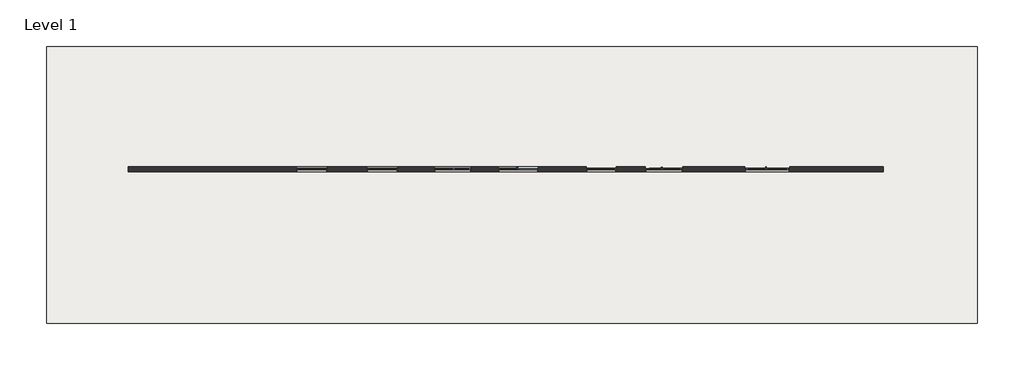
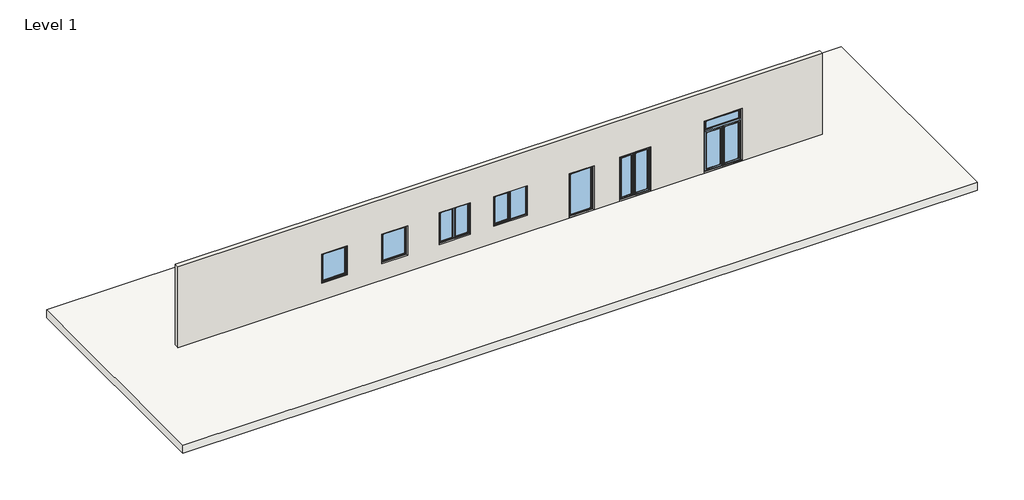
# One storey: 7 windows, 1 slab, 1 wall.
"""IFC4 building model written with IfcOpenShell, lengths in millimetres."""

from ifc_helpers import new_model, si_unit, frame, origin, place, context, project, spatial, polyline, outline, extrude, faceted_brep, transform, mapped, element, save
from components import window_083b68ea, window_8ede987c, window_5c2f0b1a, window_5d94b024, double_balcony_door_double_balcony_door_f30f3416, double_sash_window_double_sash_window_1c3ce499, single_sash_balcony_door_single_sash_balcony_door_8578c67e

model = new_model("IFC4")

# Units and contexts
model_context = context("Model", 3, world=origin())
ifc_project = project(units=[si_unit("LENGTHUNIT", "METRE", prefix="MILLI")], contexts=[model_context])

# Site, building, storey
site = spatial("IfcSite", under=ifc_project)
building = spatial("IfcBuilding", under=site)
storey = spatial("IfcBuildingStorey", under=building, Name="Level 1", Elevation=0.0)

# Slab
placement = place(None, origin())
element("IfcSlab", 1, ObjectType="Generic Floor - 400mm", at=placement, inside=storey, context=model_context, shape_type="SweptSolid", body=[
    extrude(outline(polyline([(20839.0327084, 4442.9068399), (20839.0327084, -6557.0931601), (-16160.9672916, -6557.0931601), (-16160.9672916, 4442.9068399), (20839.0327084, 4442.9068399)])), frame((0.0, 0.0, -400.0), z_axis=(0.0, 0.0, 1.0), x_axis=(1.0, 0.0, 0.0)), (0.0, 0.0, 1.0), 400.0),
])

# Wall
element("IfcWall", 2, ObjectType="Generic - 200mm", at=placement, inside=storey, context=model_context, shape_type="Brep", body=[
    faceted_brep([(-12914.9486119, -526.1211796, 0.0), (17085.0513881, -526.1211796, 0.0), (17085.0513881, -526.1211796, 4000.0), (-12914.9486119, -526.1211796, 4000.0), (13365.0513881, -526.1211796, 2580.0), (13365.0513881, -526.1211796, 20.0), (11605.0513881, -526.1211796, 20.0), (11605.0513881, -526.1211796, 2580.0), (9115.0513881, -526.1211796, 2180.0), (9115.0513881, -526.1211796, 20.0), (7655.0513881, -526.1211796, 20.0), (7655.0513881, -526.1211796, 2180.0), (6465.0513881, -526.1211796, 2180.0), (6465.0513881, -526.1211796, 20.0), (5305.0513881, -526.1211796, 20.0), (5305.0513881, -526.1211796, 2180.0), (-5019.9486119, -526.1211796, 2260.0), (-5019.9486119, -526.1211796, 820.0), (-6209.9486119, -526.1211796, 820.0), (-6209.9486119, -526.1211796, 2260.0), (705.0513881, -526.1211796, 2380.0), (705.0513881, -526.1211796, 820.0), (-734.9486119, -526.1211796, 820.0), (-734.9486119, -526.1211796, 2380.0), (-2219.9486119, -526.1211796, 2260.0), (-2219.9486119, -526.1211796, 820.0), (-3409.9486119, -526.1211796, 820.0), (-3409.9486119, -526.1211796, 2260.0), (3365.0513881, -526.1211796, 2280.0), (3365.0513881, -526.1211796, 820.0), (1805.0513881, -526.1211796, 820.0), (1805.0513881, -526.1211796, 2280.0), (17085.0513881, -326.1211796, 4000.0), (17085.0513881, -326.1211796, 0.0), (13385.0513881, -326.1211796, 0.0), (13385.0513881, -326.1211796, 2600.0), (11585.0513881, -326.1211796, 2600.0), (11585.0513881, -326.1211796, 0.0), (9135.0513881, -326.1211796, 0.0), (9135.0513881, -326.1211796, 2200.0), (7635.0513881, -326.1211796, 2200.0), (7635.0513881, -326.1211796, 0.0), (6485.0513881, -326.1211796, 0.0), (6485.0513881, -326.1211796, 2200.0), (5285.0513881, -326.1211796, 2200.0), (5285.0513881, -326.1211796, 0.0), (-12914.9486119, -326.1211796, 0.0), (-12914.9486119, -326.1211796, 4000.0), (-4999.9486119, -326.1211796, 800.0), (-4999.9486119, -326.1211796, 2280.0), (-6229.9486119, -326.1211796, 2280.0), (-6229.9486119, -326.1211796, 800.0), (725.0513881, -326.1211796, 800.0), (725.0513881, -326.1211796, 2400.0), (-754.9486119, -326.1211796, 2400.0), (-754.9486119, -326.1211796, 800.0), (-2199.9486119, -326.1211796, 800.0), (-2199.9486119, -326.1211796, 2280.0), (-3429.9486119, -326.1211796, 2280.0), (-3429.9486119, -326.1211796, 800.0), (3385.0513881, -326.1211796, 800.0), (3385.0513881, -326.1211796, 2300.0), (1785.0513881, -326.1211796, 2300.0), (1785.0513881, -326.1211796, 800.0), (5285.0513881, -446.1211796, 0.0), (6485.0513881, -446.1211796, 0.0), (7635.0513881, -454.1211796, 0.0), (9135.0513881, -454.1211796, 0.0), (11585.0513881, -446.1211796, 0.0), (13385.0513881, -446.1211796, 0.0), (13385.0513881, -446.1211796, 2600.0), (11585.0513881, -446.1211796, 2600.0), (13365.0513881, -446.1211796, 20.0), (13365.0513881, -446.1211796, 2580.0), (11605.0513881, -446.1211796, 2580.0), (11605.0513881, -446.1211796, 20.0), (9135.0513881, -454.1211796, 2200.0), (7635.0513881, -454.1211796, 2200.0), (9115.0513881, -454.1211796, 20.0), (9115.0513881, -454.1211796, 2180.0), (7655.0513881, -454.1211796, 2180.0), (7655.0513881, -454.1211796, 20.0), (6485.0513881, -446.1211796, 2200.0), (5285.0513881, -446.1211796, 2200.0), (6465.0513881, -446.1211796, 20.0), (6465.0513881, -446.1211796, 2180.0), (5305.0513881, -446.1211796, 2180.0), (5305.0513881, -446.1211796, 20.0), (-4999.9486119, -454.1211796, 2280.0), (-4999.9486119, -454.1211796, 800.0), (-6229.9486119, -454.1211796, 800.0), (-6229.9486119, -454.1211796, 2280.0), (-5019.9486119, -454.1211796, 820.0), (-5019.9486119, -454.1211796, 2260.0), (-6209.9486119, -454.1211796, 2260.0), (-6209.9486119, -454.1211796, 820.0), (725.0513881, -454.1211796, 2400.0), (725.0513881, -454.1211796, 800.0), (-754.9486119, -454.1211796, 800.0), (-754.9486119, -454.1211796, 2400.0), (705.0513881, -454.1211796, 820.0), (705.0513881, -454.1211796, 2380.0), (-734.9486119, -454.1211796, 2380.0), (-734.9486119, -454.1211796, 820.0), (-2199.9486119, -454.1211796, 2280.0), (-2199.9486119, -454.1211796, 800.0), (-3429.9486119, -454.1211796, 800.0), (-3429.9486119, -454.1211796, 2280.0), (-2219.9486119, -454.1211796, 820.0), (-2219.9486119, -454.1211796, 2260.0), (-3409.9486119, -454.1211796, 2260.0), (-3409.9486119, -454.1211796, 820.0), (3385.0513881, -454.1211796, 2300.0), (3385.0513881, -454.1211796, 800.0), (1785.0513881, -454.1211796, 800.0), (1785.0513881, -454.1211796, 2300.0), (3365.0513881, -454.1211796, 820.0), (3365.0513881, -454.1211796, 2280.0), (1805.0513881, -454.1211796, 2280.0), (1805.0513881, -454.1211796, 820.0)], [[[0, 1, 2, 3], [4, 5, 6, 7], [8, 9, 10, 11], [12, 13, 14, 15], [16, 17, 18, 19], [20, 21, 22, 23], [24, 25, 26, 27], [28, 29, 30, 31]], [[32, 33, 34, 35, 36, 37, 38, 39, 40, 41, 42, 43, 44, 45, 46, 47], [48, 49, 50, 51], [52, 53, 54, 55], [56, 57, 58, 59], [60, 61, 62, 63]], [[1, 0, 46, 45, 64, 65, 42, 41, 66, 67, 38, 37, 68, 69, 34, 33]], [[2, 1, 33, 32]], [[3, 2, 32, 47]], [[0, 3, 47, 46]], [[70, 69, 68, 71], [72, 73, 74, 75]], [[69, 70, 35, 34]], [[71, 68, 37, 36]], [[70, 71, 36, 35]], [[73, 72, 5, 4]], [[72, 75, 6, 5]], [[75, 74, 7, 6]], [[74, 73, 4, 7]], [[76, 67, 66, 77], [78, 79, 80, 81]], [[67, 76, 39, 38]], [[77, 66, 41, 40]], [[76, 77, 40, 39]], [[79, 78, 9, 8]], [[78, 81, 10, 9]], [[81, 80, 11, 10]], [[80, 79, 8, 11]], [[82, 65, 64, 83], [84, 85, 86, 87]], [[65, 82, 43, 42]], [[83, 64, 45, 44]], [[82, 83, 44, 43]], [[85, 84, 13, 12]], [[84, 87, 14, 13]], [[87, 86, 15, 14]], [[86, 85, 12, 15]], [[88, 89, 90, 91], [92, 93, 94, 95]], [[89, 88, 49, 48]], [[90, 89, 48, 51]], [[91, 90, 51, 50]], [[88, 91, 50, 49]], [[16, 93, 92, 17]], [[17, 92, 95, 18]], [[18, 95, 94, 19]], [[93, 16, 19, 94]], [[96, 97, 98, 99], [100, 101, 102, 103]], [[97, 96, 53, 52]], [[98, 97, 52, 55]], [[99, 98, 55, 54]], [[96, 99, 54, 53]], [[20, 101, 100, 21]], [[21, 100, 103, 22]], [[22, 103, 102, 23]], [[101, 20, 23, 102]], [[104, 105, 106, 107], [108, 109, 110, 111]], [[105, 104, 57, 56]], [[106, 105, 56, 59]], [[107, 106, 59, 58]], [[104, 107, 58, 57]], [[24, 109, 108, 25]], [[25, 108, 111, 26]], [[26, 111, 110, 27]], [[109, 24, 27, 110]], [[112, 113, 114, 115], [116, 117, 118, 119]], [[113, 112, 61, 60]], [[114, 113, 60, 63]], [[115, 114, 63, 62]], [[112, 115, 62, 61]], [[28, 117, 116, 29]], [[29, 116, 119, 30]], [[30, 119, 118, 31]], [[117, 28, 31, 118]]]),
])

# Windows
window_shape = window_083b68ea(model_context)
element("IfcWindow", 3, ObjectType="Double balcony door with toplight : Double balcony door with toplight", at=placement, inside=storey, context=model_context, shape_type="MappedRepresentation", body=[
    mapped(window_shape, transform((12485.0513881, -426.1211796, -800.0), x_axis=(-1.0, 0.0, 0.0), y_axis=(0.0, -1.0, 0.0), z_axis=(0.0, 0.0, 1.0))),
])
window_2_shape = window_8ede987c(model_context)
element("IfcWindow", 4, ObjectType="Hught vent : Hught vent", at=placement, inside=storey, context=model_context, shape_type="MappedRepresentation", body=[
    mapped(window_2_shape, transform((-5614.9486119, -426.1211796, 0.0), x_axis=(-1.0, 0.0, 0.0), y_axis=(0.0, -1.0, 0.0), z_axis=(0.0, 0.0, 1.0))),
])
window_3_shape = window_5c2f0b1a(model_context)
element("IfcWindow", 5, ObjectType="Single sash-T&T : Single sash-T&T", at=placement, inside=storey, context=model_context, shape_type="MappedRepresentation", body=[
    mapped(window_3_shape, transform((-2814.9486119, -426.1211796, 0.0), x_axis=(-1.0, 0.0, 0.0), y_axis=(0.0, -1.0, 0.0), z_axis=(0.0, 0.0, 1.0))),
])
window_4_shape = window_5d94b024(model_context)
element("IfcWindow", 6, ObjectType="Single sash with fix filed : Single sash with fix filed", at=placement, inside=storey, context=model_context, shape_type="MappedRepresentation", body=[
    mapped(window_4_shape, transform((2585.0513881, -426.1211796, 0.0), x_axis=(-1.0, 0.0, 0.0), y_axis=(0.0, -1.0, 0.0), z_axis=(0.0, 0.0, 1.0))),
])
double_balcony_door_double_balcony_door_shape = double_balcony_door_double_balcony_door_f30f3416(model_context)
element("IfcWindow", 7, ObjectType="Double Balcony Door : Double Balcony Door", at=placement, inside=storey, context=model_context, shape_type="MappedRepresentation", body=[
    mapped(double_balcony_door_double_balcony_door_shape, transform((8385.0513881, -426.1211796, 0.0), x_axis=(-1.0, 0.0, 0.0), y_axis=(0.0, -1.0, 0.0), z_axis=(0.0, 0.0, 1.0))),
])
double_sash_window_double_sash_window_shape = double_sash_window_double_sash_window_1c3ce499(model_context)
element("IfcWindow", 8, ObjectType="Double sash window : Double sash window", at=placement, inside=storey, context=model_context, shape_type="MappedRepresentation", body=[
    mapped(double_sash_window_double_sash_window_shape, transform((-14.9486119, -426.1211796, 0.0), x_axis=(-1.0, 0.0, 0.0), y_axis=(0.0, -1.0, 0.0), z_axis=(0.0, 0.0, 1.0))),
])
single_sash_balcony_door_single_sash_balcony_door_shape = single_sash_balcony_door_single_sash_balcony_door_8578c67e(model_context)
element("IfcWindow", 9, ObjectType="Single sash balcony door : Single sash balcony door", at=placement, inside=storey, context=model_context, shape_type="MappedRepresentation", body=[
    mapped(single_sash_balcony_door_single_sash_balcony_door_shape, transform((5885.0513881, -426.1211796, -50.0), x_axis=(-1.0, 0.0, 0.0), y_axis=(0.0, -1.0, 0.0), z_axis=(0.0, 0.0, 1.0))),
])

save(model, "model.ifc")
